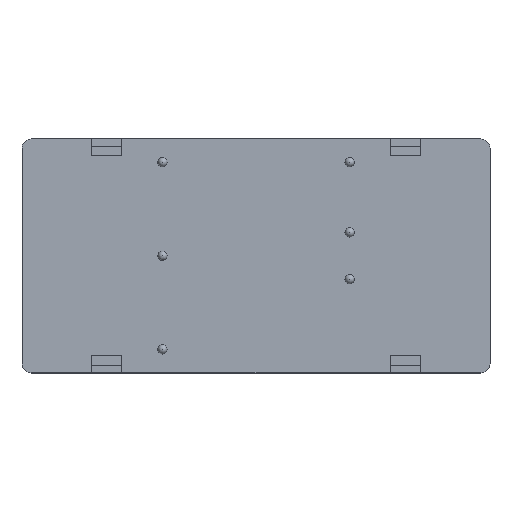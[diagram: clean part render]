
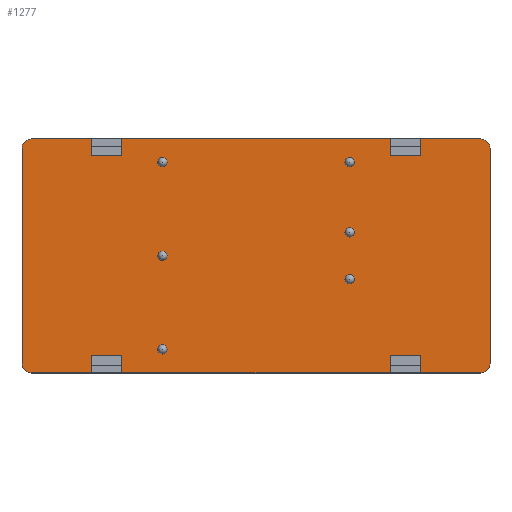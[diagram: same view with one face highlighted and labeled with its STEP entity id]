
A CAD part, top view. The second image highlights one B-rep face of the part: STEP entity #1277.
In plain terms, the highlighted planar face has unit normal (0, 0, 1).
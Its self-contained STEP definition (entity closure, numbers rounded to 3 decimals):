
#55=CIRCLE('',#1316,1.001);
#58=CIRCLE('',#1324,1.001);
#61=CIRCLE('',#1331,1.001);
#64=CIRCLE('',#1339,1.001);
#153=FACE_OUTER_BOUND('',#220,.T.);
#220=EDGE_LOOP('',(#1079,#1080,#1081,#1082,#1083,#1084,#1085,#1086,#1087,
#1088,#1089,#1090,#1091,#1092,#1093,#1094,#1095,#1096,#1097,#1098,#1099,
#1100,#1101,#1102));
#241=LINE('',#1788,#381);
#246=LINE('',#1798,#386);
#249=LINE('',#1806,#389);
#271=LINE('',#1853,#411);
#277=LINE('',#1867,#417);
#282=LINE('',#1878,#422);
#285=LINE('',#1890,#425);
#293=LINE('',#1909,#433);
#303=LINE('',#1924,#443);
#306=LINE('',#1937,#446);
#310=LINE('',#1944,#450);
#330=LINE('',#2022,#470);
#333=LINE('',#2026,#473);
#336=LINE('',#2030,#476);
#342=LINE('',#2040,#482);
#361=LINE('',#2110,#501);
#364=LINE('',#2114,#504);
#370=LINE('',#2125,#510);
#375=LINE('',#2134,#515);
#378=LINE('',#2138,#518);
#381=VECTOR('',#1422,3.3);
#386=VECTOR('',#1429,29.12);
#389=VECTOR('',#1434,3.3);
#411=VECTOR('',#1470,6.54);
#417=VECTOR('',#1484,23.4);
#422=VECTOR('',#1497,6.54);
#425=VECTOR('',#1512,23.4);
#433=VECTOR('',#1534,6.54);
#443=VECTOR('',#1548,6.54);
#446=VECTOR('',#1563,3.3);
#450=VECTOR('',#1569,29.12);
#470=VECTOR('',#1627,1.85);
#473=VECTOR('',#1632,1.85);
#476=VECTOR('',#1637,1.85);
#482=VECTOR('',#1647,1.85);
#501=VECTOR('',#1702,1.85);
#504=VECTOR('',#1707,1.85);
#510=VECTOR('',#1717,1.85);
#515=VECTOR('',#1724,1.85);
#518=VECTOR('',#1729,3.3);
#521=VERTEX_POINT('',#1785);
#522=VERTEX_POINT('',#1787);
#523=VERTEX_POINT('',#1791);
#526=VERTEX_POINT('',#1796);
#529=VERTEX_POINT('',#1803);
#530=VERTEX_POINT('',#1805);
#547=VERTEX_POINT('',#1850);
#548=VERTEX_POINT('',#1852);
#549=VERTEX_POINT('',#1856);
#552=VERTEX_POINT('',#1866);
#553=VERTEX_POINT('',#1874);
#554=VERTEX_POINT('',#1876);
#555=VERTEX_POINT('',#1880);
#557=VERTEX_POINT('',#1889);
#559=VERTEX_POINT('',#1898);
#561=VERTEX_POINT('',#1907);
#563=VERTEX_POINT('',#1919);
#564=VERTEX_POINT('',#1922);
#567=VERTEX_POINT('',#1934);
#568=VERTEX_POINT('',#1936);
#569=VERTEX_POINT('',#1940);
#570=VERTEX_POINT('',#1942);
#611=VERTEX_POINT('',#2124);
#614=VERTEX_POINT('',#2132);
#629=EDGE_CURVE('',#522,#521,#241,.T.);
#634=EDGE_CURVE('',#526,#523,#246,.T.);
#637=EDGE_CURVE('',#530,#529,#249,.T.);
#663=EDGE_CURVE('',#547,#548,#271,.T.);
#665=EDGE_CURVE('',#548,#549,#55,.T.);
#670=EDGE_CURVE('',#549,#552,#277,.T.);
#677=EDGE_CURVE('',#554,#553,#282,.T.);
#678=EDGE_CURVE('',#555,#554,#58,.T.);
#683=EDGE_CURVE('',#557,#555,#285,.T.);
#688=EDGE_CURVE('',#559,#557,#61,.T.);
#694=EDGE_CURVE('',#561,#559,#293,.T.);
#704=EDGE_CURVE('',#564,#563,#303,.T.);
#705=EDGE_CURVE('',#552,#564,#64,.T.);
#710=EDGE_CURVE('',#568,#567,#306,.T.);
#714=EDGE_CURVE('',#570,#569,#310,.T.);
#745=EDGE_CURVE('',#521,#553,#330,.T.);
#748=EDGE_CURVE('',#526,#522,#333,.T.);
#751=EDGE_CURVE('',#529,#523,#336,.T.);
#757=EDGE_CURVE('',#547,#530,#342,.T.);
#785=EDGE_CURVE('',#567,#563,#361,.T.);
#788=EDGE_CURVE('',#570,#568,#364,.T.);
#794=EDGE_CURVE('',#611,#569,#370,.T.);
#799=EDGE_CURVE('',#561,#614,#375,.T.);
#802=EDGE_CURVE('',#614,#611,#378,.T.);
#1079=ORIENTED_EDGE('',*,*,#794,.T.);
#1080=ORIENTED_EDGE('',*,*,#714,.F.);
#1081=ORIENTED_EDGE('',*,*,#788,.T.);
#1082=ORIENTED_EDGE('',*,*,#710,.T.);
#1083=ORIENTED_EDGE('',*,*,#785,.T.);
#1084=ORIENTED_EDGE('',*,*,#704,.F.);
#1085=ORIENTED_EDGE('',*,*,#705,.F.);
#1086=ORIENTED_EDGE('',*,*,#670,.F.);
#1087=ORIENTED_EDGE('',*,*,#665,.F.);
#1088=ORIENTED_EDGE('',*,*,#663,.F.);
#1089=ORIENTED_EDGE('',*,*,#757,.T.);
#1090=ORIENTED_EDGE('',*,*,#637,.T.);
#1091=ORIENTED_EDGE('',*,*,#751,.T.);
#1092=ORIENTED_EDGE('',*,*,#634,.F.);
#1093=ORIENTED_EDGE('',*,*,#748,.T.);
#1094=ORIENTED_EDGE('',*,*,#629,.T.);
#1095=ORIENTED_EDGE('',*,*,#745,.T.);
#1096=ORIENTED_EDGE('',*,*,#677,.F.);
#1097=ORIENTED_EDGE('',*,*,#678,.F.);
#1098=ORIENTED_EDGE('',*,*,#683,.F.);
#1099=ORIENTED_EDGE('',*,*,#688,.F.);
#1100=ORIENTED_EDGE('',*,*,#694,.F.);
#1101=ORIENTED_EDGE('',*,*,#799,.T.);
#1102=ORIENTED_EDGE('',*,*,#802,.T.);
#1155=PLANE('',#1391);
#1277=ADVANCED_FACE('',(#153),#1155,.T.);
#1316=AXIS2_PLACEMENT_3D('',#1857,#1474,#1475);
#1324=AXIS2_PLACEMENT_3D('',#1881,#1500,#1501);
#1331=AXIS2_PLACEMENT_3D('',#1899,#1521,#1522);
#1339=AXIS2_PLACEMENT_3D('',#1926,#1551,#1552);
#1391=AXIS2_PLACEMENT_3D('',#2139,#1730,#1731);
#1422=DIRECTION('',(-1.,0.,0.));
#1429=DIRECTION('',(1.,0.,0.));
#1434=DIRECTION('',(-1.,0.,0.));
#1470=DIRECTION('',(1.,0.,0.));
#1474=DIRECTION('center_axis',(0.,0.,-1.));
#1475=DIRECTION('ref_axis',(-1.,0.,0.));
#1484=DIRECTION('',(0.,-1.,0.));
#1497=DIRECTION('',(1.,0.,0.));
#1500=DIRECTION('center_axis',(0.,0.,-1.));
#1501=DIRECTION('ref_axis',(0.,-1.,0.));
#1512=DIRECTION('',(0.,1.,0.));
#1521=DIRECTION('center_axis',(0.,0.,-1.));
#1522=DIRECTION('ref_axis',(1.,0.,0.));
#1534=DIRECTION('',(-1.,0.,0.));
#1548=DIRECTION('',(-1.,0.,0.));
#1551=DIRECTION('center_axis',(0.,0.,-1.));
#1552=DIRECTION('ref_axis',(0.,1.,0.));
#1563=DIRECTION('',(1.,0.,0.));
#1569=DIRECTION('',(-1.,0.,0.));
#1627=DIRECTION('',(0.,1.,0.));
#1632=DIRECTION('',(0.,-1.,0.));
#1637=DIRECTION('',(0.,1.,0.));
#1647=DIRECTION('',(0.,-1.,0.));
#1702=DIRECTION('',(0.,-1.,0.));
#1707=DIRECTION('',(0.,1.,0.));
#1717=DIRECTION('',(0.,-1.,0.));
#1724=DIRECTION('',(0.,1.,0.));
#1729=DIRECTION('',(1.,0.,0.));
#1730=DIRECTION('center_axis',(0.,0.,
1.));
#1731=DIRECTION('ref_axis',(1.,0.,0.));
#1785=CARTESIAN_POINT('',(-17.86,10.851,11.));
#1787=CARTESIAN_POINT('',(-14.56,10.851,11.));
#1788=CARTESIAN_POINT('',(-8.93,10.851,11.));
#1791=CARTESIAN_POINT('',(14.56,12.701,11.));
#1796=CARTESIAN_POINT('',(-14.56,12.701,11.));
#1798=CARTESIAN_POINT('',(-24.4,12.701,11.));
#1803=CARTESIAN_POINT('',(14.56,10.851,11.));
#1805=CARTESIAN_POINT('',(17.86,10.851,11.));
#1806=CARTESIAN_POINT('',(7.28,10.851,11.));
#1850=CARTESIAN_POINT('',(17.86,12.701,11.));
#1852=CARTESIAN_POINT('',(24.4,12.701,11.));
#1853=CARTESIAN_POINT('',(-24.4,12.701,11.));
#1856=CARTESIAN_POINT('',(25.401,11.7,11.));
#1857=CARTESIAN_POINT('Origin',(24.4,11.7,11.));
#1866=CARTESIAN_POINT('',(25.401,-11.7,11.));
#1867=CARTESIAN_POINT('',(25.401,11.7,11.));
#1874=CARTESIAN_POINT('',(-17.86,12.701,11.));
#1876=CARTESIAN_POINT('',(-24.4,12.701,11.));
#1878=CARTESIAN_POINT('',(-24.4,12.701,11.));
#1880=CARTESIAN_POINT('',(-25.401,11.7,11.));
#1881=CARTESIAN_POINT('Origin',(-24.4,11.7,11.));
#1889=CARTESIAN_POINT('',(-25.401,-11.7,11.));
#1890=CARTESIAN_POINT('',(-25.401,-11.7,11.));
#1898=CARTESIAN_POINT('',(-24.4,-12.701,11.));
#1899=CARTESIAN_POINT('Origin',(-24.4,-11.7,11.));
#1907=CARTESIAN_POINT('',(-17.86,-12.701,11.));
#1909=CARTESIAN_POINT('',(24.4,-12.701,11.));
#1919=CARTESIAN_POINT('',(17.86,-12.701,11.));
#1922=CARTESIAN_POINT('',(24.4,-12.701,11.));
#1924=CARTESIAN_POINT('',(24.4,-12.701,11.));
#1926=CARTESIAN_POINT('Origin',(24.4,-11.7,11.));
#1934=CARTESIAN_POINT('',(17.86,-10.851,11.));
#1936=CARTESIAN_POINT('',(14.56,-10.851,11.));
#1937=CARTESIAN_POINT('',(8.93,-10.851,11.));
#1940=CARTESIAN_POINT('',(-14.56,-12.701,11.));
#1942=CARTESIAN_POINT('',(14.56,-12.701,11.));
#1944=CARTESIAN_POINT('',(24.4,-12.701,11.));
#2022=CARTESIAN_POINT('',(-17.86,6.351,11.));
#2026=CARTESIAN_POINT('',(-14.56,5.426,11.));
#2030=CARTESIAN_POINT('',(14.56,6.351,11.));
#2040=CARTESIAN_POINT('',(17.86,5.426,11.));
#2110=CARTESIAN_POINT('',(17.86,-6.351,11.));
#2114=CARTESIAN_POINT('',(14.56,-5.426,11.));
#2124=CARTESIAN_POINT('',(-14.56,-10.851,11.));
#2125=CARTESIAN_POINT('',(-14.56,-6.351,11.));
#2132=CARTESIAN_POINT('',(-17.86,-10.851,11.));
#2134=CARTESIAN_POINT('',(-17.86,-5.426,11.));
#2138=CARTESIAN_POINT('',(-7.28,-10.851,11.));
#2139=CARTESIAN_POINT('Origin',(0.,0.,11.));
